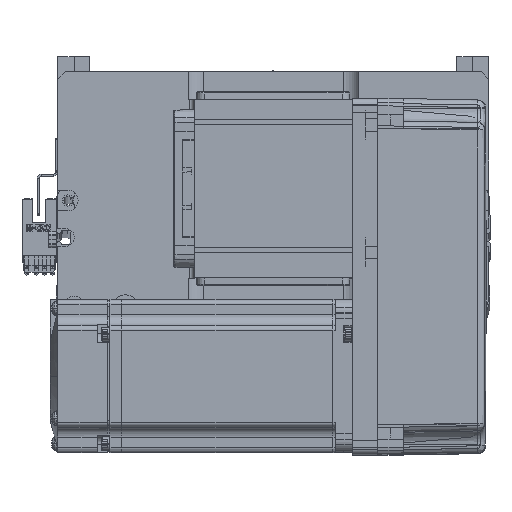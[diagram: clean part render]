
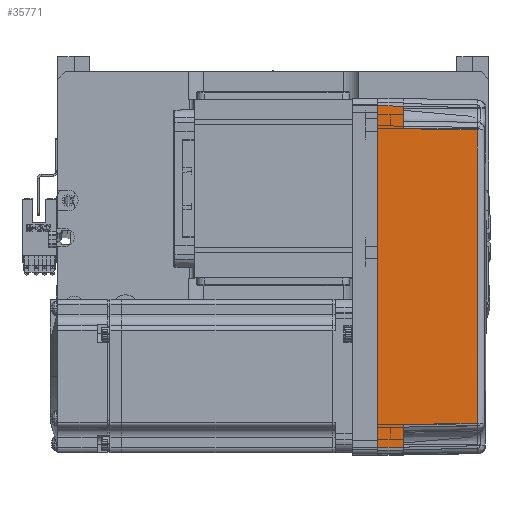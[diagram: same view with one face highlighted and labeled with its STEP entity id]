
A CAD part, top view. The second image highlights one B-rep face of the part: STEP entity #35771.
In plain terms, the highlighted planar face has unit normal (0.018, 0, 1) as drawn and (0, 1, 0.017) by its records, which use the part's own axes.
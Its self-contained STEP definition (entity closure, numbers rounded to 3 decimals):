
#330 = LINE ( 'NONE', #39516, #28407 ) ;
#2020 = CARTESIAN_POINT ( 'NONE',  ( 57.495, 35.32, 38.985 ) ) ;
#3387 = ORIENTED_EDGE ( 'NONE', *, *, #28554, .T. ) ;
#4409 = VERTEX_POINT ( 'NONE', #9063 ) ;
#4415 = EDGE_CURVE ( 'NONE', #28421, #54867, #43031, .T. ) ;
#6421 = ORIENTED_EDGE ( 'NONE', *, *, #60945, .T. ) ;
#7406 = FACE_OUTER_BOUND ( 'NONE', #11343, .T. ) ;
#7679 = VERTEX_POINT ( 'NONE', #64182 ) ;
#7689 = CARTESIAN_POINT ( 'NONE',  ( 57.495, 35.32, 38.985 ) ) ;
#7978 = DIRECTION ( 'NONE',  ( -0.017, -0.017, 1. ) ) ;
#9063 = CARTESIAN_POINT ( 'NONE',  ( -67., 36., 0. ) ) ;
#11343 = EDGE_LOOP ( 'NONE', ( #6421, #27969, #48662, #40846, #3387, #14064, #58136, #39875 ) ) ;
#11349 = DIRECTION ( 'NONE',  ( 1., 0., 0. ) ) ;
#11940 = CARTESIAN_POINT ( 'NONE',  ( -66.826, 35.825, 10. ) ) ;
#14064 = ORIENTED_EDGE ( 'NONE', *, *, #25599, .T. ) ;
#15916 = VECTOR ( 'NONE', #45480, 1000. ) ;
#17002 = CARTESIAN_POINT ( 'NONE',  ( -58., 35.825, 10. ) ) ;
#19279 = VECTOR ( 'NONE', #44001, 1000. ) ;
#19780 = CARTESIAN_POINT ( 'NONE',  ( 70., 35.825, 10. ) ) ;
#20234 = DIRECTION ( 'NONE',  ( 1., 0., 0. ) ) ;
#20785 = EDGE_CURVE ( 'NONE', #29455, #7679, #330, .T. ) ;
#21849 = CARTESIAN_POINT ( 'NONE',  ( 70., 35.825, 10. ) ) ;
#22288 = VERTEX_POINT ( 'NONE', #52523 ) ;
#22316 = LINE ( 'NONE', #29876, #15916 ) ;
#24737 = VERTEX_POINT ( 'NONE', #44716 ) ;
#25599 = EDGE_CURVE ( 'NONE', #57183, #7679, #46697, .T. ) ;
#26619 = EDGE_CURVE ( 'NONE', #4409, #29455, #41871, .T. ) ;
#27969 = ORIENTED_EDGE ( 'NONE', *, *, #4415, .T. ) ;
#28407 = VECTOR ( 'NONE', #7978, 1000. ) ;
#28421 = VERTEX_POINT ( 'NONE', #11940 ) ;
#28554 = EDGE_CURVE ( 'NONE', #22288, #57183, #47161, .T. ) ;
#29455 = VERTEX_POINT ( 'NONE', #47088 ) ;
#29876 = CARTESIAN_POINT ( 'NONE',  ( -67., 36., 0. ) ) ;
#31404 = CARTESIAN_POINT ( 'NONE',  ( 58., 35.825, 10. ) ) ;
#32988 = CARTESIAN_POINT ( 'NONE',  ( 19.165, 35.316, 39.181 ) ) ;
#34108 = EDGE_CURVE ( 'NONE', #24737, #22288, #55622, .T. ) ;
#35771 = ADVANCED_FACE ( 'NONE', ( #7406 ), #51630, .T. ) ;
#39516 = CARTESIAN_POINT ( 'NONE',  ( 67.001, 36.001, -0.052 ) ) ;
#39875 = ORIENTED_EDGE ( 'NONE', *, *, #26619, .F. ) ;
#39930 = CARTESIAN_POINT ( 'NONE',  ( 0., 36., 0. ) ) ;
#40846 = ORIENTED_EDGE ( 'NONE', *, *, #34108, .T. ) ;
#41610 = VECTOR ( 'NONE', #53865, 1000. ) ;
#41871 = LINE ( 'NONE', #39930, #60161 ) ;
#43031 = LINE ( 'NONE', #19780, #47012 ) ;
#44001 = DIRECTION ( 'NONE',  ( 0.017, -0.017, 1. ) ) ;
#44716 = CARTESIAN_POINT ( 'NONE',  ( -57.495, 35.32, 38.985 ) ) ;
#45480 = DIRECTION ( 'NONE',  ( 0.017, -0.017, 1. ) ) ;
#46697 = LINE ( 'NONE', #21849, #55422 ) ;
#47012 = VECTOR ( 'NONE', #20234, 1000. ) ;
#47088 = CARTESIAN_POINT ( 'NONE',  ( 67., 36., 0. ) ) ;
#47161 = LINE ( 'NONE', #2020, #41610 ) ;
#48662 = ORIENTED_EDGE ( 'NONE', *, *, #51956, .T. ) ;
#49280 = DIRECTION ( 'NONE',  ( 1., 0., 0. ) ) ;
#51630 = PLANE ( 'NONE',  #63169 ) ;
#51956 = EDGE_CURVE ( 'NONE', #54867, #24737, #56853, .T. ) ;
#52078 = DIRECTION ( 'NONE',  ( 0., 1., 0.017 ) ) ;
#52523 = CARTESIAN_POINT ( 'NONE',  ( 57.495, 35.32, 38.985 ) ) ;
#53253 = CARTESIAN_POINT ( 'NONE',  ( -19.165, 35.316, 39.181 ) ) ;
#53865 = DIRECTION ( 'NONE',  ( 0.017, 0.017, -1. ) ) ;
#54867 = VERTEX_POINT ( 'NONE', #17002 ) ;
#55422 = VECTOR ( 'NONE', #11349, 1000. ) ;
#55622 = B_SPLINE_CURVE_WITH_KNOTS ( 'NONE', 3,
 ( #59046, #53253, #32988, #7689 ),
 .UNSPECIFIED., .F., .F.,
 ( 4, 4 ),
 ( 0., 1. ),
 .UNSPECIFIED. ) ;
#56521 = CARTESIAN_POINT ( 'NONE',  ( 70., 36., 0. ) ) ;
#56853 = LINE ( 'NONE', #59162, #19279 ) ;
#57183 = VERTEX_POINT ( 'NONE', #31404 ) ;
#57408 = DIRECTION ( 'NONE',  ( 0., -0.017, 1. ) ) ;
#58136 = ORIENTED_EDGE ( 'NONE', *, *, #20785, .F. ) ;
#59046 = CARTESIAN_POINT ( 'NONE',  ( -57.495, 35.32, 38.985 ) ) ;
#59162 = CARTESIAN_POINT ( 'NONE',  ( -58., 35.825, 10. ) ) ;
#60161 = VECTOR ( 'NONE', #49280, 1000. ) ;
#60945 = EDGE_CURVE ( 'NONE', #4409, #28421, #22316, .T. ) ;
#63169 = AXIS2_PLACEMENT_3D ( 'NONE', #56521, #52078, #57408 ) ;
#64182 = CARTESIAN_POINT ( 'NONE',  ( 66.826, 35.825, 10. ) ) ;
